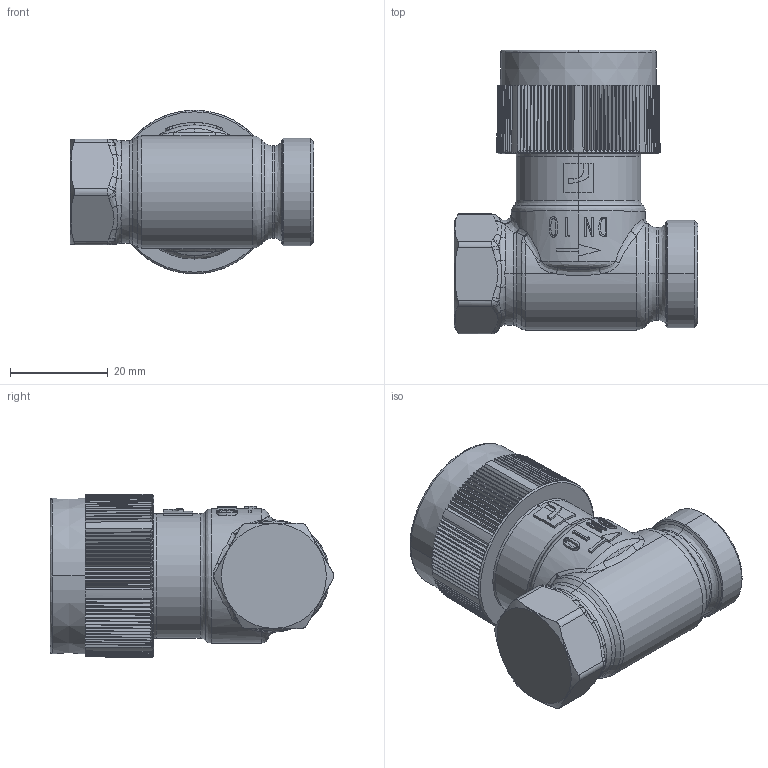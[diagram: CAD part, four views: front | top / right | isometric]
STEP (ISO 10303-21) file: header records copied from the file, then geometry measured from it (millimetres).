
FILE_DESCRIPTION (( 'STEP AP203' ), '1' );
FILE_NAME ('443010.STEP', '2021-06-18T07:35:53', ( '' ), ( '' ), 'SwSTEP 2.0', 'SolidWorks 2016', '' );
FILE_SCHEMA (( 'CONFIG_CONTROL_DESIGN' ));
Length unit declared in the file: millimetre
Products named in the file (1): 443010
Bounding box: 50 x 58.15 x 33.5 mm (x, y, z)
Volume: 45944 mm3; surface area: 9320 mm2
Topology: 1 solids, 1 shells, 708 faces, 1887 edges, 1185 vertices
Faces by surface type: plane 259, cylinder 183, cone 138, bspline 128
Entity records: 27929 total; most frequent: CARTESIAN_POINT 12451, ORIENTED_EDGE 3766, DIRECTION 2509, EDGE_CURVE 1883, VERTEX_POINT 1185, AXIS2_PLACEMENT_3D 905, EDGE_LOOP 716, ADVANCED_FACE 708
